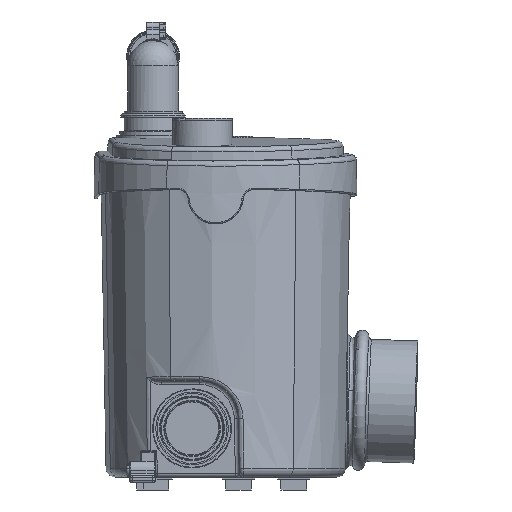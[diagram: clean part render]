
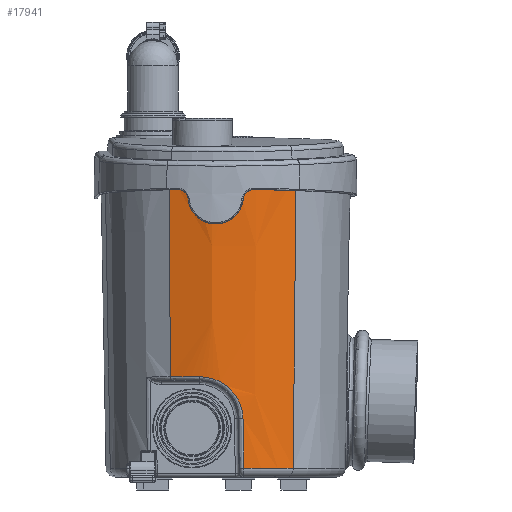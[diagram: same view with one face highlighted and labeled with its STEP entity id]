
A CAD part, left-side view. The second image highlights one B-rep face of the part: STEP entity #17941.
In plain terms, the highlighted conical face has half-angle 1 degrees and reference radius 103.712 mm.
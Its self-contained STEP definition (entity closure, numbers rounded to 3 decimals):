
#1082 = CARTESIAN_POINT ( 'NONE',  ( -278.055, 40.594, 6.878 ) ) ;
#1135 = CARTESIAN_POINT ( 'NONE',  ( -278.116, 40.644, 9.754 ) ) ;
#1229 = CARTESIAN_POINT ( 'NONE',  ( -278.177, 40.695, 12.631 ) ) ;
#1235 = CARTESIAN_POINT ( 'NONE',  ( -278.237, 40.746, 15.507 ) ) ;
#1253 = AXIS2_PLACEMENT_3D ( 'NONE', #37455, #37370, #37315 ) ;
#1295 = CARTESIAN_POINT ( 'NONE',  ( -278.407, 40.888, 23.504 ) ) ;
#1308 = CARTESIAN_POINT ( 'NONE',  ( -278.576, 41.029, 31.501 ) ) ;
#1370 = CARTESIAN_POINT ( 'NONE',  ( -278.744, 41.171, 39.498 ) ) ;
#1461 = CARTESIAN_POINT ( 'NONE',  ( -278.786, 41.206, 41.497 ) ) ;
#2213 = CARTESIAN_POINT ( 'NONE',  ( -278.828, 41.241, 43.496 ) ) ;
#2228 = CARTESIAN_POINT ( 'NONE',  ( -278.87, 41.277, 45.496 ) ) ;
#3415 = FACE_OUTER_BOUND ( 'NONE', #35227, .T. ) ;
#3580 = B_SPLINE_CURVE_WITH_KNOTS ( 'NONE', 3,
 ( #2228, #2213, #1461, #1370, #1308, #1295, #1235, #1229, #1135, #1082 ),
 .UNSPECIFIED., .F., .F.,
 ( 4, 3, 3, 4 ),
 ( 0., 0.006, 0.03, 0.039 ),
 .UNSPECIFIED. ) ;
#4673 = DIRECTION ( 'NONE',  ( 1., 0., 0. ) ) ;
#4763 = DIRECTION ( 'NONE',  ( 0., 0., 1. ) ) ;
#5046 = CARTESIAN_POINT ( 'NONE',  ( -274.348, 97.648, 77.838 ) ) ;
#5388 = ORIENTED_EDGE ( 'NONE', *, *, #59072, .T. ) ;
#5511 = DIRECTION ( 'NONE',  ( 1., 0., 0. ) ) ;
#5670 = CARTESIAN_POINT ( 'NONE',  ( -176.12, 60.352, 236.46 ) ) ;
#6447 = DIRECTION ( 'NONE',  ( 0., 0., 1. ) ) ;
#7192 = CARTESIAN_POINT ( 'NONE',  ( -176.12, 60.352, 0. ) ) ;
#10811 = CARTESIAN_POINT ( 'NONE',  ( -280.135, 75.217, 77.936 ) ) ;
#11202 = CIRCLE ( 'NONE', #1253, 103.832 ) ;
#11406 = CIRCLE ( 'NONE', #11480, 107.839 ) ;
#11480 = AXIS2_PLACEMENT_3D ( 'NONE', #5670, #4763, #4673 ) ;
#11652 = CARTESIAN_POINT ( 'NONE',  ( -278.055, 40.594, 6.878 ) ) ;
#12229 = LINE ( 'NONE', #42715, #17656 ) ;
#12482 = VERTEX_POINT ( 'NONE', #21513 ) ;
#16991 = ORIENTED_EDGE ( 'NONE', *, *, #59773, .T. ) ;
#17656 = VECTOR ( 'NONE', #42943, 1000. ) ;
#17941 = ADVANCED_FACE ( 'NONE', ( #3415 ), #59416, .T. ) ;
#18909 = ORIENTED_EDGE ( 'NONE', *, *, #58975, .T. ) ;
#21513 = CARTESIAN_POINT ( 'NONE',  ( -278.87, 41.277, 45.496 ) ) ;
#25773 = B_SPLINE_CURVE_WITH_KNOTS ( 'NONE', 3,
 ( #66472, #71459, #32752, #32657, #51679, #32431 ),
 .UNSPECIFIED., .F., .F.,
 ( 4, 2, 4 ),
 ( 0., 0.012, 0.023 ),
 .UNSPECIFIED. ) ;
#26998 = CARTESIAN_POINT ( 'NONE',  ( -262.221, 2.32, 6.878 ) ) ;
#27341 = B_SPLINE_CURVE_WITH_KNOTS ( 'NONE', 3,
 ( #65549, #64972, #61431, #61191, #61134, #61036, #60772, #60690, #60283, #60194, #60127, #59946, #59801, #59637, #59530, #59277, #48011, #47896, #46924, #58659, #57899, #57707, #57564, #57174, #55707, #55306, #55219, #55213 ),
 .UNSPECIFIED., .F., .F.,
 ( 4, 2, 2, 2, 2, 2, 2, 2, 2, 2, 2, 2, 2, 4 ),
 ( 0., 0.006, 0.01, 0.011, 0.013, 0.019, 0.021, 0.023, 0.026, 0.032, 0.039, 0.042, 0.045, 0.052 ),
 .UNSPECIFIED. ) ;
#32431 = CARTESIAN_POINT ( 'NONE',  ( -280.135, 75.217, 77.936 ) ) ;
#32657 = CARTESIAN_POINT ( 'NONE',  ( -278.829, 82.843, 77.914 ) ) ;
#32752 = CARTESIAN_POINT ( 'NONE',  ( -276.899, 90.326, 77.882 ) ) ;
#35227 = EDGE_LOOP ( 'NONE', ( #61270, #16991, #5388, #18909, #40067, #52395, #51657 ) ) ;
#37315 = DIRECTION ( 'NONE',  ( -1., 0., 0. ) ) ;
#37370 = DIRECTION ( 'NONE',  ( 0., 0., 1. ) ) ;
#37455 = CARTESIAN_POINT ( 'NONE',  ( -176.12, 60.352, 6.878 ) ) ;
#40067 = ORIENTED_EDGE ( 'NONE', *, *, #58853, .T. ) ;
#40253 = VERTEX_POINT ( 'NONE', #26998 ) ;
#42715 = CARTESIAN_POINT ( 'NONE',  ( -262.121, 2.387, 0. ) ) ;
#42943 = DIRECTION ( 'NONE',  ( 0.014, 0.01, -1. ) ) ;
#45418 = VERTEX_POINT ( 'NONE', #5046 ) ;
#46924 = CARTESIAN_POINT ( 'NONE',  ( -280.322, 48.586, 65.542 ) ) ;
#47896 = CARTESIAN_POINT ( 'NONE',  ( -280.505, 50.007, 67.169 ) ) ;
#48011 = CARTESIAN_POINT ( 'NONE',  ( -280.741, 52.362, 69.392 ) ) ;
#49261 = CARTESIAN_POINT ( 'NONE',  ( -265.544, 0.08, 236.46 ) ) ;
#51657 = ORIENTED_EDGE ( 'NONE', *, *, #58083, .F. ) ;
#51679 = CARTESIAN_POINT ( 'NONE',  ( -279.587, 79.054, 77.927 ) ) ;
#52395 = ORIENTED_EDGE ( 'NONE', *, *, #58202, .T. ) ;
#52421 = VERTEX_POINT ( 'NONE', #49261 ) ;
#53453 = CARTESIAN_POINT ( 'NONE',  ( -276.937, 98.631, 236.46 ) ) ;
#55213 = CARTESIAN_POINT ( 'NONE',  ( -278.87, 41.277, 45.496 ) ) ;
#55219 = CARTESIAN_POINT ( 'NONE',  ( -278.916, 41.316, 47.688 ) ) ;
#55306 = CARTESIAN_POINT ( 'NONE',  ( -279.004, 41.576, 49.846 ) ) ;
#55707 = CARTESIAN_POINT ( 'NONE',  ( -279.187, 42.289, 53.032 ) ) ;
#57174 = CARTESIAN_POINT ( 'NONE',  ( -279.257, 42.583, 54.09 ) ) ;
#57564 = CARTESIAN_POINT ( 'NONE',  ( -279.409, 43.269, 56.152 ) ) ;
#57707 = CARTESIAN_POINT ( 'NONE',  ( -279.492, 43.661, 57.159 ) ) ;
#57899 = CARTESIAN_POINT ( 'NONE',  ( -279.751, 44.982, 60.11 ) ) ;
#58083 = EDGE_CURVE ( 'NONE', #52421, #40253, #12229, .T. ) ;
#58202 = EDGE_CURVE ( 'NONE', #67236, #40253, #11202, .T. ) ;
#58659 = CARTESIAN_POINT ( 'NONE',  ( -279.941, 46.053, 61.984 ) ) ;
#58679 = VERTEX_POINT ( 'NONE', #10811 ) ;
#58853 = EDGE_CURVE ( 'NONE', #12482, #67236, #3580, .T. ) ;
#58975 = EDGE_CURVE ( 'NONE', #58679, #12482, #27341, .T. ) ;
#59072 = EDGE_CURVE ( 'NONE', #45418, #58679, #25773, .T. ) ;
#59277 = CARTESIAN_POINT ( 'NONE',  ( -280.814, 53.184, 70.097 ) ) ;
#59416 = CONICAL_SURFACE ( 'NONE', #71642, 103.712, 0.017 ) ;
#59530 = CARTESIAN_POINT ( 'NONE',  ( -280.909, 54.475, 71.098 ) ) ;
#59637 = CARTESIAN_POINT ( 'NONE',  ( -280.939, 54.916, 71.424 ) ) ;
#59773 = EDGE_CURVE ( 'NONE', #72636, #45418, #62733, .T. ) ;
#59801 = CARTESIAN_POINT ( 'NONE',  ( -280.992, 55.81, 72.05 ) ) ;
#59946 = CARTESIAN_POINT ( 'NONE',  ( -281.016, 56.263, 72.352 ) ) ;
#60127 = CARTESIAN_POINT ( 'NONE',  ( -281.121, 58.559, 73.801 ) ) ;
#60194 = CARTESIAN_POINT ( 'NONE',  ( -281.156, 60.49, 74.775 ) ) ;
#60283 = CARTESIAN_POINT ( 'NONE',  ( -281.122, 63.021, 75.764 ) ) ;
#60690 = CARTESIAN_POINT ( 'NONE',  ( -281.111, 63.533, 75.95 ) ) ;
#60772 = CARTESIAN_POINT ( 'NONE',  ( -281.08, 64.569, 76.299 ) ) ;
#61036 = CARTESIAN_POINT ( 'NONE',  ( -281.061, 65.093, 76.462 ) ) ;
#61134 = CARTESIAN_POINT ( 'NONE',  ( -280.99, 66.665, 76.909 ) ) ;
#61191 = CARTESIAN_POINT ( 'NONE',  ( -280.925, 67.719, 77.156 ) ) ;
#61270 = ORIENTED_EDGE ( 'NONE', *, *, #68509, .F. ) ;
#61431 = CARTESIAN_POINT ( 'NONE',  ( -280.68, 70.901, 77.746 ) ) ;
#62631 = CARTESIAN_POINT ( 'NONE',  ( -273.078, 97.166, 0. ) ) ;
#62733 = LINE ( 'NONE', #62631, #65437 ) ;
#63541 = DIRECTION ( 'NONE',  ( 0.016, -0.006, -1. ) ) ;
#64972 = CARTESIAN_POINT ( 'NONE',  ( -280.446, 73.047, 77.942 ) ) ;
#65437 = VECTOR ( 'NONE', #63541, 1000. ) ;
#65549 = CARTESIAN_POINT ( 'NONE',  ( -280.135, 75.217, 77.936 ) ) ;
#66472 = CARTESIAN_POINT ( 'NONE',  ( -274.348, 97.648, 77.838 ) ) ;
#67236 = VERTEX_POINT ( 'NONE', #11652 ) ;
#68509 = EDGE_CURVE ( 'NONE', #72636, #52421, #11406, .T. ) ;
#71459 = CARTESIAN_POINT ( 'NONE',  ( -275.724, 94.025, 77.862 ) ) ;
#71642 = AXIS2_PLACEMENT_3D ( 'NONE', #7192, #6447, #5511 ) ;
#72636 = VERTEX_POINT ( 'NONE', #53453 ) ;
